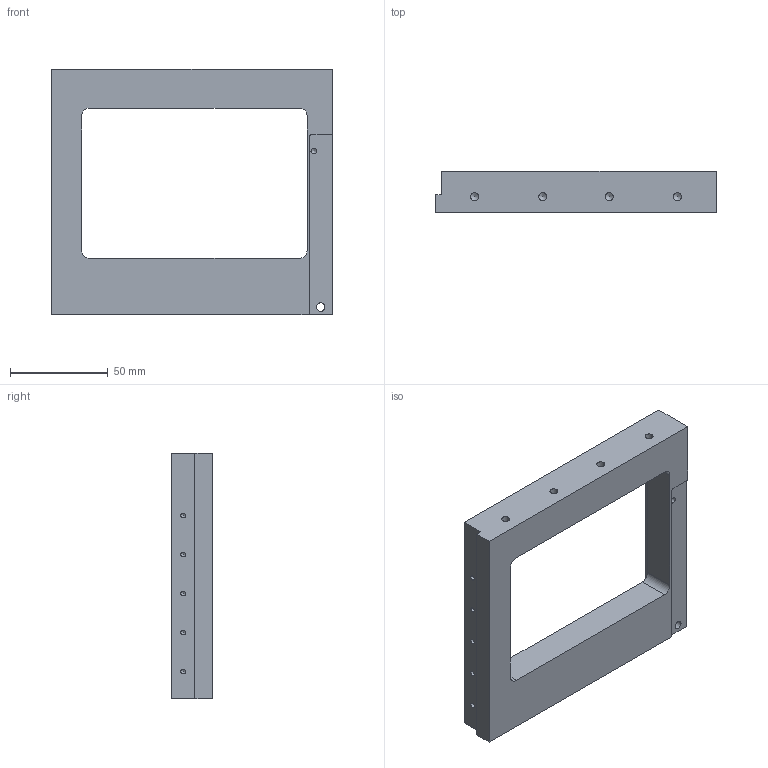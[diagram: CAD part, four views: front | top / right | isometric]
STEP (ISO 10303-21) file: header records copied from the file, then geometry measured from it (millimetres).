
FILE_DESCRIPTION(/* description */ (''),/* implementation_level */ '2;1');
FILE_NAME(/* name */ 'C:\Users\strothej\Documents\ActualDocuments\MicroscopeParts\TwoPhotonSystem\ScanningMechanics\v34\Drawings\Filter_Holder_Mount.stp',/* time_stamp */ '2017-09-06T17:02:02-07:00',/* author */ ('strothej'),/* organization */ (''),/* preprocessor_version */ 'ST-DEVELOPER v16.1',/* originating_system */ 'Autodesk Inventor 2016',/* authorisation */ '');
FILE_SCHEMA (('AUTOMOTIVE_DESIGN { 1 0 10303 214 3 1 1 }'));
Length unit declared in the file: millimetre
Products named in the file (1): Filter_Holder_Mount
Bounding box: 144 x 21 x 126 mm (x, y, z)
Volume: 166845.9 mm3; surface area: 40332.9 mm2
Topology: 1 solids, 1 shells, 74 faces, 189 edges, 119 vertices
Faces by surface type: cylinder 32, cone 21, plane 21
Full cylindrical faces by diameter (mm): 2.013 x5, 2.459 x5, 3 x3, 3.242 x4, 4.134 x4, 4.3 x1, 6 x1
Entity records: 1852 total; most frequent: DIRECTION 338, CARTESIAN_POINT 297, ORIENTED_EDGE 248, AXIS2_PLACEMENT_3D 139, EDGE_LOOP 124, EDGE_CURVE 124, VERTEX_POINT 98, FACE_OUTER_BOUND 74
